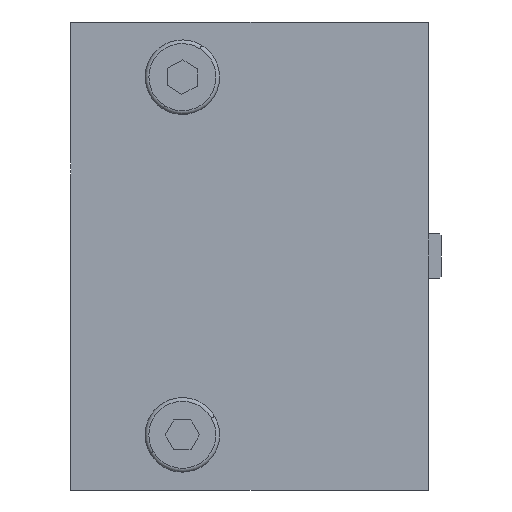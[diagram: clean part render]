
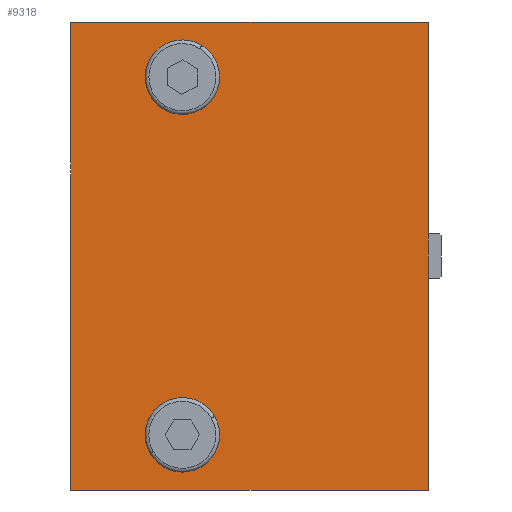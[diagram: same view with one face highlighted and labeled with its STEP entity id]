
A CAD part, front view. The second image highlights one B-rep face of the part: STEP entity #9318.
In plain terms, the highlighted planar face has unit normal (0, -1, 0).
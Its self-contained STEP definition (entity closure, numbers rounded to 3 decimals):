
#9 = ORIENTED_EDGE ( 'NONE', *, *, #15176, .T. ) ;
#1052 = DIRECTION ( 'NONE',  ( 0., 1., 0. ) ) ;
#1235 = CIRCLE ( 'NONE', #4253, 8. ) ;
#1423 = DIRECTION ( 'NONE',  ( 0., 0., 1. ) ) ;
#1504 = CARTESIAN_POINT ( 'NONE',  ( 146., 0., -48. ) ) ;
#1600 = LINE ( 'NONE', #14730, #14681 ) ;
#1817 = EDGE_CURVE ( 'NONE', #16851, #10860, #12736, .T. ) ;
#1926 = ORIENTED_EDGE ( 'NONE', *, *, #13407, .T. ) ;
#2483 = CARTESIAN_POINT ( 'NONE',  ( 146., 0., 48. ) ) ;
#2577 = CARTESIAN_POINT ( 'NONE',  ( 146., 0., 40. ) ) ;
#2983 = DIRECTION ( 'NONE',  ( 0., 0., -1. ) ) ;
#3012 = CARTESIAN_POINT ( 'NONE',  ( 146., 0., -40. ) ) ;
#3260 = VERTEX_POINT ( 'NONE', #3973 ) ;
#3317 = EDGE_CURVE ( 'NONE', #4528, #8451, #13284, .T. ) ;
#3354 = VERTEX_POINT ( 'NONE', #16500 ) ;
#3539 = CARTESIAN_POINT ( 'NONE',  ( 212.01, 0., -62.8 ) ) ;
#3600 = VERTEX_POINT ( 'NONE', #3012 ) ;
#3820 = ORIENTED_EDGE ( 'NONE', *, *, #1817, .T. ) ;
#3973 = CARTESIAN_POINT ( 'NONE',  ( 146., 0., 56. ) ) ;
#4253 = AXIS2_PLACEMENT_3D ( 'NONE', #14019, #6730, #17041 ) ;
#4370 = DIRECTION ( 'NONE',  ( 0., 0., -1. ) ) ;
#4458 = CARTESIAN_POINT ( 'NONE',  ( 116.01, 0., 62.8 ) ) ;
#4528 = VERTEX_POINT ( 'NONE', #3539 ) ;
#4607 = EDGE_CURVE ( 'NONE', #3354, #3600, #14583, .T. ) ;
#4616 = FACE_BOUND ( 'NONE', #11220, .T. ) ;
#4859 = ORIENTED_EDGE ( 'NONE', *, *, #3317, .F. ) ;
#4965 = DIRECTION ( 'NONE',  ( 0., 0., -1. ) ) ;
#5158 = DIRECTION ( 'NONE',  ( 0., 0., -1. ) ) ;
#5556 = CIRCLE ( 'NONE', #5863, 8. ) ;
#5572 = CARTESIAN_POINT ( 'NONE',  ( 116.01, 0., -62.8 ) ) ;
#5863 = AXIS2_PLACEMENT_3D ( 'NONE', #2483, #1052, #4965 ) ;
#5884 = PLANE ( 'NONE',  #10220 ) ;
#6237 = CIRCLE ( 'NONE', #17925, 8. ) ;
#6620 = VECTOR ( 'NONE', #14281, 1000. ) ;
#6730 = DIRECTION ( 'NONE',  ( 0., 1., 0. ) ) ;
#7072 = DIRECTION ( 'NONE',  ( 0., 1., 0. ) ) ;
#7087 = VECTOR ( 'NONE', #2983, 1000. ) ;
#7096 = EDGE_LOOP ( 'NONE', ( #4859, #9122, #3820, #13396 ) ) ;
#7222 = FACE_BOUND ( 'NONE', #14395, .T. ) ;
#8451 = VERTEX_POINT ( 'NONE', #5572 ) ;
#8552 = ORIENTED_EDGE ( 'NONE', *, *, #4607, .T. ) ;
#8626 = CARTESIAN_POINT ( 'NONE',  ( 116.01, 0., -62.8 ) ) ;
#8773 = FACE_OUTER_BOUND ( 'NONE', #7096, .T. ) ;
#8798 = CARTESIAN_POINT ( 'NONE',  ( 212.01, 0., 62.8 ) ) ;
#9122 = ORIENTED_EDGE ( 'NONE', *, *, #18673, .T. ) ;
#9318 = ADVANCED_FACE ( 'NONE', ( #4616, #7222, #8773 ), #5884, .T. ) ;
#9855 = DIRECTION ( 'NONE',  ( -1., 0., 0. ) ) ;
#10220 = AXIS2_PLACEMENT_3D ( 'NONE', #11714, #10471, #17650 ) ;
#10471 = DIRECTION ( 'NONE',  ( 0., -1., 0. ) ) ;
#10487 = CARTESIAN_POINT ( 'NONE',  ( 212.2, 0., -62.8 ) ) ;
#10490 = EDGE_CURVE ( 'NONE', #10860, #8451, #15962, .T. ) ;
#10860 = VERTEX_POINT ( 'NONE', #4458 ) ;
#11220 = EDGE_LOOP ( 'NONE', ( #8552, #9 ) ) ;
#11714 = CARTESIAN_POINT ( 'NONE',  ( 212.2, 0., 62.8 ) ) ;
#12183 = ORIENTED_EDGE ( 'NONE', *, *, #14347, .T. ) ;
#12452 = CARTESIAN_POINT ( 'NONE',  ( 146., 0., -48. ) ) ;
#12736 = LINE ( 'NONE', #18661, #17295 ) ;
#13284 = LINE ( 'NONE', #10487, #6620 ) ;
#13396 = ORIENTED_EDGE ( 'NONE', *, *, #10490, .T. ) ;
#13407 = EDGE_CURVE ( 'NONE', #13698, #3260, #1235, .T. ) ;
#13698 = VERTEX_POINT ( 'NONE', #2577 ) ;
#14019 = CARTESIAN_POINT ( 'NONE',  ( 146., 0., 48. ) ) ;
#14281 = DIRECTION ( 'NONE',  ( -1., 0., 0. ) ) ;
#14347 = EDGE_CURVE ( 'NONE', #3260, #13698, #5556, .T. ) ;
#14395 = EDGE_LOOP ( 'NONE', ( #1926, #12183 ) ) ;
#14583 = CIRCLE ( 'NONE', #16178, 8. ) ;
#14681 = VECTOR ( 'NONE', #1423, 1000. ) ;
#14730 = CARTESIAN_POINT ( 'NONE',  ( 212.01, 0., -62.8 ) ) ;
#15176 = EDGE_CURVE ( 'NONE', #3600, #3354, #6237, .T. ) ;
#15557 = DIRECTION ( 'NONE',  ( 0., 1., 0. ) ) ;
#15962 = LINE ( 'NONE', #8626, #7087 ) ;
#16178 = AXIS2_PLACEMENT_3D ( 'NONE', #12452, #15557, #5158 ) ;
#16500 = CARTESIAN_POINT ( 'NONE',  ( 146., 0., -56. ) ) ;
#16851 = VERTEX_POINT ( 'NONE', #8798 ) ;
#17041 = DIRECTION ( 'NONE',  ( 0., 0., -1. ) ) ;
#17295 = VECTOR ( 'NONE', #9855, 1000. ) ;
#17650 = DIRECTION ( 'NONE',  ( 0., 0., -1. ) ) ;
#17925 = AXIS2_PLACEMENT_3D ( 'NONE', #1504, #7072, #4370 ) ;
#18661 = CARTESIAN_POINT ( 'NONE',  ( 212.2, 0., 62.8 ) ) ;
#18673 = EDGE_CURVE ( 'NONE', #4528, #16851, #1600, .T. ) ;
